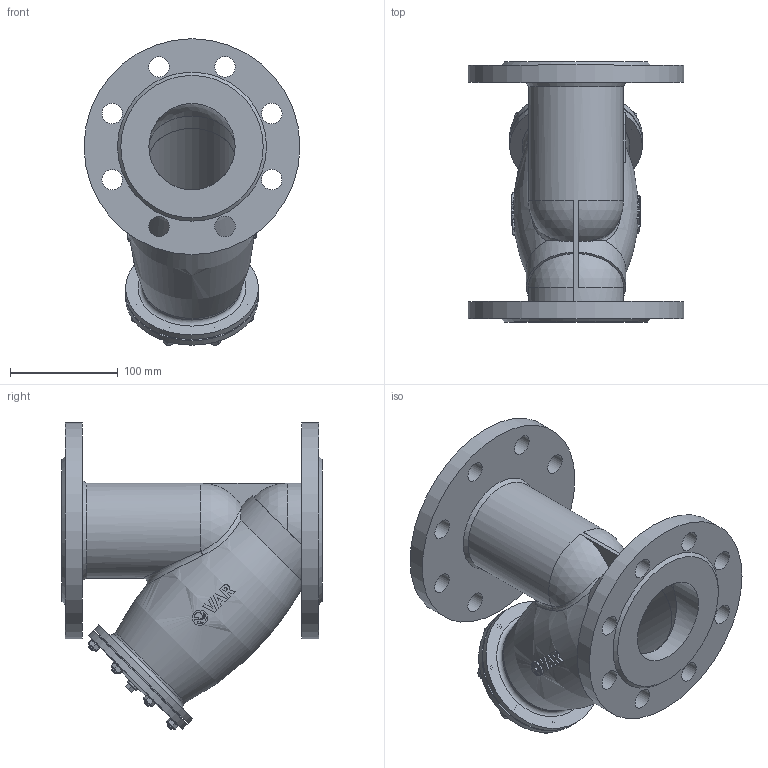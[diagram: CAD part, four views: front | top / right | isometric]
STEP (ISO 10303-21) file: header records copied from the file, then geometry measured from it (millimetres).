
FILE_DESCRIPTION(('STEP AP203'), '1');
FILE_NAME('VAR STRAINER ôèëüòð-ãðÿçåóëîâèòåëü', '', ('UNSPECIFIED'), ('UNSPECIFIED'), 'C3D Converter', 'C3D Toolkit', '');
FILE_SCHEMA(('CONFIG_CONTROL_DESIGN'));
Length unit declared in the file: millimetre
Assembly tree (29 placements, depth 2):
  (unnamed)
    (unnamed)
    (unnamed)
    (unnamed)  x8
    (unnamed)  x8
    (unnamed)  x8
    (unnamed)
    (unnamed)
    (unnamed)
Bounding box: 200 x 241 x 284.01 mm (x, y, z)
Volume: 1484538.3 mm3; surface area: 465381.3 mm2
Topology: 30 solids, 30 shells, 557 faces, 1341 edges, 877 vertices
Faces by surface type: plane 214, extrusion 152, cylinder 90, cone 59, torus 28, sphere 8, bspline 6
Full cylindrical faces by diameter (mm): 6 x24, 7 x8, 8 x10, 10.8 x8, 12 x1, 14.21 x1, 19 x16, 80 x5, 84 x3, 88 x1, 92 x1, 94 x1, 96 x2, 123 x2, 200 x2
Entity records: 26641 total; most frequent: CARTESIAN_POINT 14721, ORIENTED_EDGE 1900, DIRECTION 1391, EDGE_CURVE 950, VERTEX_POINT 680, B_SPLINE_CURVE_WITH_KNOTS 608, EDGE_LOOP 592, AXIS2_PLACEMENT_3D 483
